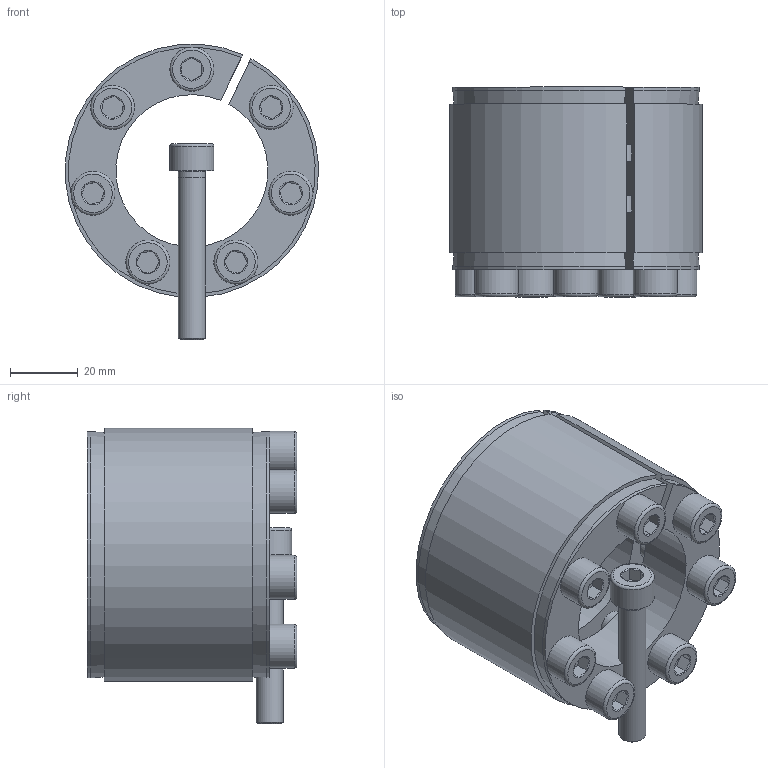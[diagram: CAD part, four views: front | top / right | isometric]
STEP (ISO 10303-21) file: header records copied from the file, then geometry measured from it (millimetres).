
FILE_DESCRIPTION( ( 'Unknown' ), '1' );
FILE_NAME( 'C:/Dokumente und Einstellungen/Sven/Desktop/homepage/cad - homepage/KBS11/KBS 11 - 45 x 75.stp', 'Unknown', ( 'Unknown' ), ( 'Unknown' ), 'XStep 1.0', 'Unknown', ' ' );
FILE_SCHEMA( ( 'automotive_design' ) );
Length unit declared in the file: millimetre
Products named in the file (3): Assem1; KBS 11 - 45 x 75; ISO EN DIN 4762 M8x50
Bounding box: 74.81 x 62 x 87.41 mm (x, y, z)
Volume: 247142.2 mm3; surface area: 100486.8 mm2
Topology: 10 solids, 10 shells, 282 faces, 606 edges, 376 vertices
Faces by surface type: plane 116, cylinder 86, cone 64, torus 16
Full cylindrical faces by diameter (mm): 7 x8, 8 x58, 13 x8
Entity records: 2342 total; most frequent: CARTESIAN_POINT 377, DIRECTION 344, ORIENTED_EDGE 262, AXIS2_PLACEMENT_3D 152, EDGE_LOOP 140, EDGE_CURVE 131, VERTEX_POINT 101, FACE_OUTER_BOUND 93
